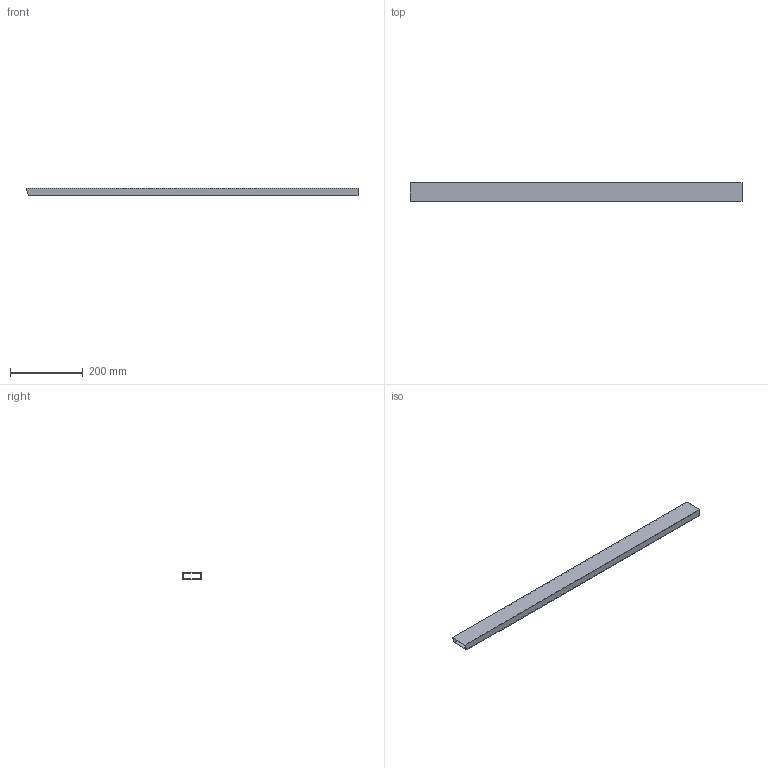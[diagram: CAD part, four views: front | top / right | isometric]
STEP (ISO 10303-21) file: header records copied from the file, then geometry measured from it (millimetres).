
FILE_DESCRIPTION(/* description */ (''),/* implementation_level */ '2;1');
FILE_NAME(/* name */ 'Pos127-Koker 50x20x2 EN 10219-2-S235JRH-1st',/* time_stamp */ '2024-08-06T13:49:49+02:00',/* author */ (''),/* organization */ (''),/* preprocessor_version */ 'ST-DEVELOPER v16.5',/* originating_system */ 'HiCAD 2024 2901.2 Build 361',/* authorisation */ '');
FILE_SCHEMA (('AUTOMOTIVE_DESIGN { 1 0 10303 214 1 1 1 1 }'));
Length unit declared in the file: millimetre
Products named in the file (1): Pos127-Koker 50x20x2 EN 10219-2-S235JRH-1st
Bounding box: 912.38 x 50 x 20 mm (x, y, z)
Volume: 239934.2 mm3; surface area: 240478.3 mm2
Topology: 1 solids, 1 shells, 10 faces, 24 edges, 16 vertices
Faces by surface type: plane 10
Entity records: 550 total; most frequent: CARTESIAN_POINT 50, PRESENTATION_STYLE_ASSIGNMENT 49, COLOUR_RGB 49, DRAUGHTING_PRE_DEFINED_CURVE_FONT 48, CURVE_STYLE 48, OVER_RIDING_STYLED_ITEM 48, ORIENTED_EDGE 48, DIRECTION 44
